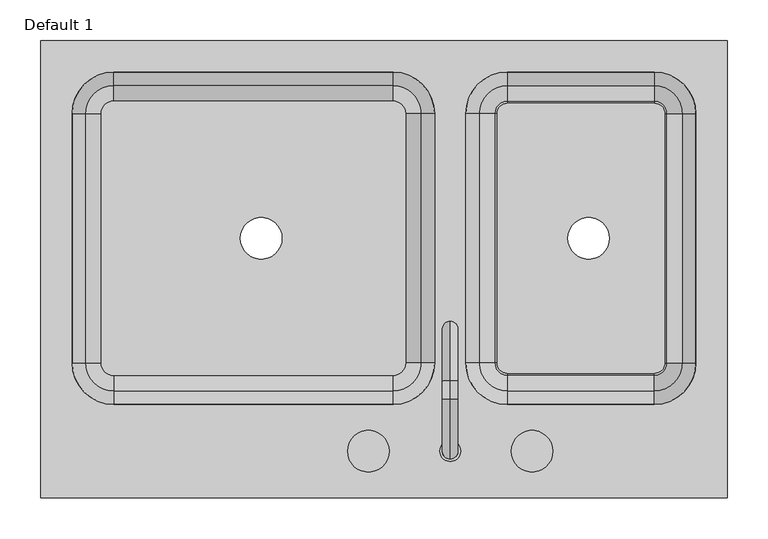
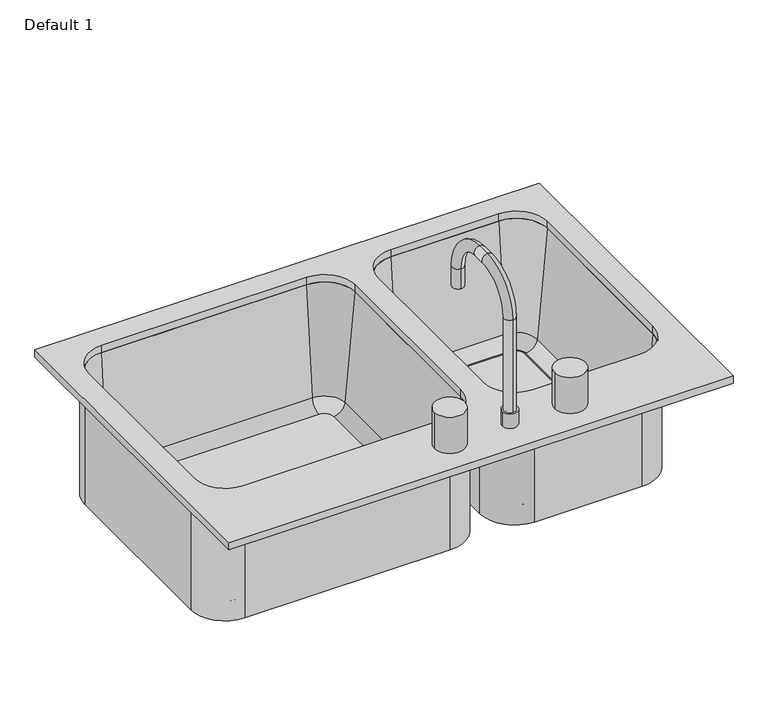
"""IFC4 building model written with IfcOpenShell, lengths in millimetres: flow terminal geometry, 2D Kitcken-Sink Double Half : Default 1."""

from ifc_helpers import new_model, si_unit, point, frame, frame_2d, origin, place, context, project, spatial, polyline, circle_curve, ellipse_curve, trimmed, segment, composite_curve, outline, extrude, source, transform, mapped, element, save
from ifc_brep_helpers import plane_surface, cylinder_surface, revolved_surface, advanced_brep


def default_1_8c387ca1(model_context):
    return source(origin(), model_context, "Body", "SolidModel", [
        advanced_brep(
        [(-38.8723412, -116.6454011, 555.625), (-38.8723412, 188.1545989, 555.625), (-54.1607594, 203.4430171, 555.625), (-395.4107594, 203.4430171, 555.625), (-410.6991776, 188.1545989, 555.625), (-410.6991776, -116.6454011, 555.625), (-395.4107594, -131.9338193, 555.625), (-54.1607594, -131.9338193, 555.625), (-240.6607594, 35.7545989, 555.625), (-189.8607594, 35.7545989, 555.625), (-452.5607594, -116.6454011, 546.1), (-452.5607594, 188.1545989, 546.1), (-395.4107594, 245.3045989, 546.1), (-54.1607594, 245.3045989, 546.1), (2.9892406, 188.1545989, 546.1), (2.9892406, -116.6454011, 546.1), (-54.1607594, -173.7954011, 546.1), (-395.4107594, -173.7954011, 546.1), (-240.6607594, 35.7545989, 546.1), (-189.8607594, 35.7545989, 546.1), (2.9892406, -116.6454011, 762.0), (-54.1607594, -173.7954011, 762.0), (-54.1607594, -150.9113283, 573.0146831), (-19.8948322, -116.6454011, 573.0146831), (-54.1607594, -167.4454011, 762.0), (-3.3607594, -116.6454011, 762.0), (2.9892406, 188.1545989, 762.0), (-19.8948322, 188.1545989, 573.0146831), (-3.3607594, 188.1545989, 762.0), (-54.1607594, 245.3045989, 762.0), (-54.1607594, 222.4205261, 573.0146831), (-54.1607594, 238.9545989, 762.0), (-395.4107594, 245.3045989, 762.0), (-395.4107594, 222.4205261, 573.0146831), (-395.4107594, 238.9545989, 762.0), (-452.5607594, 188.1545989, 762.0), (-429.6766866, 188.1545989, 573.0146831), (-446.2107594, 188.1545989, 762.0), (-452.5607594, -116.6454011, 762.0), (-429.6766866, -116.6454011, 573.0146831), (-446.2107594, -116.6454011, 762.0), (-395.4107594, -173.7954011, 762.0), (-395.4107594, -150.9113283, 573.0146831), (-395.4107594, -167.4454011, 762.0)],
        [
            (0, 1),
            (1, 2, circle_curve(frame((-54.1607594, 188.1545989, 555.625), z_axis=(0.0, 0.0, 1.0), x_axis=(1.0, 0.0, 0.0)), 15.2884182)),
            (2, 3),
            (3, 4, circle_curve(frame((-395.4107594, 188.1545989, 555.625), z_axis=(0.0, 0.0, 1.0), x_axis=(0.0, 1.0, 0.0)), 15.2884182)),
            (4, 5),
            (5, 6, circle_curve(frame((-395.4107594, -116.6454011, 555.625), z_axis=(0.0, 0.0, 1.0), x_axis=(-1.0, 0.0, 0.0)), 15.2884182)),
            (6, 7),
            (7, 0, circle_curve(frame((-54.1607594, -116.6454011, 555.625), z_axis=(0.0, 0.0, 1.0), x_axis=(0.0, -1.0, 0.0)), 15.2884182)),
            (8, 9, circle_curve(frame((-215.2607594, 35.7545989, 555.625), z_axis=(0.0, 0.0, -1.0), x_axis=(1.0, 0.0, 0.0)), 25.4)),
            (9, 8, circle_curve(frame((-215.2607594, 35.7545989, 555.625), z_axis=(0.0, 0.0, -1.0), x_axis=(1.0, 0.0, 0.0)), 25.4)),
            (10, 11),
            (11, 12, circle_curve(frame((-395.4107594, 188.1545989, 546.1), z_axis=(0.0, 0.0, -1.0), x_axis=(0.0, 1.0, 0.0)), 57.15)),
            (12, 13),
            (13, 14, circle_curve(frame((-54.1607594, 188.1545989, 546.1), z_axis=(0.0, 0.0, -1.0), x_axis=(1.0, 0.0, 0.0)), 57.15)),
            (14, 15),
            (15, 16, circle_curve(frame((-54.1607594, -116.6454011, 546.1), z_axis=(0.0, 0.0, -1.0), x_axis=(0.0, -1.0, 0.0)), 57.15)),
            (16, 17),
            (17, 10, circle_curve(frame((-395.4107594, -116.6454011, 546.1), z_axis=(0.0, 0.0, -1.0), x_axis=(-1.0, 0.0, 0.0)), 57.15)),
            (18, 19, circle_curve(frame((-215.2607594, 35.7545989, 546.1), z_axis=(0.0, 0.0, 1.0), x_axis=(1.0, 0.0, 0.0)), 25.4)),
            (19, 18, circle_curve(frame((-215.2607594, 35.7545989, 546.1), z_axis=(0.0, 0.0, 1.0), x_axis=(1.0, 0.0, 0.0)), 25.4)),
            (9, 19),
            (18, 8),
            (15, 20),
            (20, 21, circle_curve(frame((-54.1607594, -116.6454011, 762.0), z_axis=(0.0, 0.0, -1.0), x_axis=(0.0, -1.0, 0.0)), 57.15)),
            (21, 16),
            (7, 22, circle_curve(frame((-54.1607594, -131.9338193, 574.675), z_axis=(-1.0, 0.0, 0.0), x_axis=(0.0, -1.0, 0.0)), 19.05)),
            (22, 23, circle_curve(frame((-54.1607594, -116.6454011, 573.0146831), z_axis=(0.0, 0.0, 1.0), x_axis=(0.0, -1.0, 0.0)), 34.2659272)),
            (23, 0, circle_curve(frame((-38.8723412, -116.6454011, 574.675), z_axis=(0.0, 1.0, 0.0), x_axis=(1.0, 0.0, 0.0)), 19.05)),
            (22, 24),
            (24, 25, circle_curve(frame((-54.1607594, -116.6454011, 762.0), z_axis=(0.0, 0.0, 1.0), x_axis=(0.0, -1.0, 0.0)), 50.8)),
            (25, 23),
            (20, 25),
            (24, 21),
            (14, 26),
            (26, 20),
            (23, 27),
            (27, 1, circle_curve(frame((-38.8723412, 188.1545989, 574.675), z_axis=(0.0, 1.0, 0.0), x_axis=(1.0, 0.0, 0.0)), 19.05)),
            (25, 28),
            (28, 27),
            (26, 28),
            (13, 29),
            (29, 26, circle_curve(frame((-54.1607594, 188.1545989, 762.0), z_axis=(0.0, 0.0, -1.0), x_axis=(1.0, 0.0, 0.0)), 57.15)),
            (27, 30, circle_curve(frame((-54.1607594, 188.1545989, 573.0146831), z_axis=(0.0, 0.0, 1.0), x_axis=(1.0, 0.0, 0.0)), 34.2659272)),
            (30, 2, circle_curve(frame((-54.1607594, 203.4430171, 574.675), z_axis=(-1.0, 0.0, 0.0), x_axis=(0.0, 1.0, 0.0)), 19.05)),
            (28, 31, circle_curve(frame((-54.1607594, 188.1545989, 762.0), z_axis=(0.0, 0.0, 1.0), x_axis=(1.0, 0.0, 0.0)), 50.8)),
            (31, 30),
            (29, 31),
            (12, 32),
            (32, 29),
            (30, 33),
            (33, 3, circle_curve(frame((-395.4107594, 203.4430171, 574.675), z_axis=(-1.0, 0.0, 0.0), x_axis=(0.0, 1.0, 0.0)), 19.05)),
            (31, 34),
            (34, 33),
            (32, 34),
            (11, 35),
            (35, 32, circle_curve(frame((-395.4107594, 188.1545989, 762.0), z_axis=(0.0, 0.0, -1.0), x_axis=(0.0, 1.0, 0.0)), 57.15)),
            (33, 36, circle_curve(frame((-395.4107594, 188.1545989, 573.0146831), z_axis=(0.0, 0.0, 1.0), x_axis=(0.0, 1.0, 0.0)), 34.2659272)),
            (36, 4, circle_curve(frame((-410.6991776, 188.1545989, 574.675), z_axis=(0.0, -1.0, 0.0), x_axis=(-1.0, 0.0, 0.0)), 19.05)),
            (34, 37, circle_curve(frame((-395.4107594, 188.1545989, 762.0), z_axis=(0.0, 0.0, 1.0), x_axis=(0.0, 1.0, 0.0)), 50.8)),
            (37, 36),
            (35, 37),
            (10, 38),
            (38, 35),
            (36, 39),
            (39, 5, circle_curve(frame((-410.6991776, -116.6454011, 574.675), z_axis=(0.0, -1.0, 0.0), x_axis=(-1.0, 0.0, 0.0)), 19.05)),
            (37, 40),
            (40, 39),
            (38, 40),
            (17, 41),
            (41, 38, circle_curve(frame((-395.4107594, -116.6454011, 762.0), z_axis=(0.0, 0.0, -1.0), x_axis=(-1.0, 0.0, 0.0)), 57.15)),
            (39, 42, circle_curve(frame((-395.4107594, -116.6454011, 573.0146831), z_axis=(0.0, 0.0, 1.0), x_axis=(-1.0, 0.0, 0.0)), 34.2659272)),
            (42, 6, circle_curve(frame((-395.4107594, -131.9338193, 574.675), z_axis=(1.0, 0.0, 0.0), x_axis=(0.0, -1.0, 0.0)), 19.05)),
            (40, 43, circle_curve(frame((-395.4107594, -116.6454011, 762.0), z_axis=(0.0, 0.0, 1.0), x_axis=(-1.0, 0.0, 0.0)), 50.8)),
            (43, 42),
            (41, 43),
            (21, 41),
            (42, 22),
            (43, 24),
        ],
        [
            plane_surface(frame((-395.4107594, -129.3454011, 555.625), z_axis=(0.0, 0.0, 1.0), x_axis=(-1.0, 0.0, 0.0))),
            plane_surface(frame((-395.4107594, -129.3454011, 546.1), z_axis=(0.0, 0.0, -1.0), x_axis=(1.0, 0.0, 0.0))),
            revolved_surface(polyline([(-189.8607594, 35.7545989, 546.1), (-189.8607594, 35.7545989, 555.625)]), (-215.2607594, 35.7545989, 0.0), (0.0, 0.0, -1.0)),
            cylinder_surface(frame((-54.1607594, -116.6454011, 0.0), z_axis=(0.0, 0.0, -1.0), x_axis=(0.0, -1.0, 0.0)), 57.15),
            revolved_surface(trimmed(ellipse_curve(frame((-54.1607594, -131.9338193, 574.675), z_axis=(-1.0, 0.0, 0.0), x_axis=(0.0, -1.0, 0.0)), 19.05, 19.05), [point((-54.1607594, -131.9338193, 555.625))], [point((-54.1607594, -150.9113283, 573.0146831))], True, "CARTESIAN"), (-54.1607594, -116.6454011, 0.0), (0.0, 0.0, -1.0)),
            revolved_surface(polyline([(-54.1607594, -150.9113283, 573.0146831), (-54.1607594, -167.4454011, 762.0)]), (-54.1607594, -116.6454011, 0.0), (0.0, 0.0, -1.0)),
            plane_surface(frame((-54.1607594, -116.6454011, 762.0), z_axis=(0.0, 0.0, 1.0), x_axis=(0.0, -1.0, 0.0))),
            plane_surface(frame((2.9892406, -116.6454011, 762.0), z_axis=(1.0, 0.0, 0.0), x_axis=(0.0, 1.0, 0.0))),
            revolved_surface(polyline([(-19.8223412, 188.1545989, 574.675), (-19.8223412, -116.6454011, 574.675)]), (-38.8723412, -116.6454011, 574.675), (0.0, 1.0, 0.0)),
            plane_surface(frame((-19.8948322, -116.6454011, 573.0146831), z_axis=(-0.996194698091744, 0.0, 0.08715574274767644), x_axis=(0.0, 1.0, 0.0))),
            plane_surface(frame((-3.3607594, -116.6454011, 762.0), z_axis=(0.0, 0.0, 1.0), x_axis=(0.0, 1.0, 0.0))),
            cylinder_surface(frame((-54.1607594, 188.1545989, 0.0), z_axis=(0.0, 0.0, -1.0), x_axis=(1.0, 0.0, 0.0)), 57.15),
            revolved_surface(trimmed(ellipse_curve(frame((-38.8723412, 188.1545989, 574.675), z_axis=(0.0, -1.0, 0.0), x_axis=(1.0, 0.0, 0.0)), 19.05, 19.05), [point((-38.8723412, 188.1545989, 555.625))], [point((-19.8948322, 188.1545989, 573.0146831))], True, "CARTESIAN"), (-54.1607594, 188.1545989, 0.0), (0.0, 0.0, -1.0)),
            revolved_surface(polyline([(-19.8948322, 188.1545989, 573.0146831), (-3.3607594, 188.1545989, 762.0)]), (-54.1607594, 188.1545989, 0.0), (0.0, 0.0, -1.0)),
            plane_surface(frame((-54.1607594, 188.1545989, 762.0), z_axis=(0.0, 0.0, 1.0), x_axis=(1.0, 0.0, 0.0))),
            plane_surface(frame((-54.1607594, 245.3045989, 762.0), z_axis=(0.0, 1.0, 0.0), x_axis=(-1.0, 0.0, 0.0))),
            revolved_surface(polyline([(-395.4107594, 222.4930171, 574.675), (-54.1607594, 222.4930171, 574.675)]), (-54.1607594, 203.4430171, 574.675), (-1.0, 0.0, 0.0)),
            plane_surface(frame((-54.1607594, 222.4205261, 573.0146831), z_axis=(0.0, -0.996194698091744, 0.08715574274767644), x_axis=(-1.0, 0.0, 0.0))),
            plane_surface(frame((-54.1607594, 238.9545989, 762.0), z_axis=(0.0, 0.0, 1.0), x_axis=(-1.0, 0.0, 0.0))),
            cylinder_surface(frame((-395.4107594, 188.1545989, 0.0), z_axis=(0.0, 0.0, -1.0), x_axis=(0.0, 1.0, 0.0)), 57.15),
            revolved_surface(trimmed(ellipse_curve(frame((-395.4107594, 203.4430171, 574.675), z_axis=(1.0, 0.0, 0.0), x_axis=(0.0, 1.0, 0.0)), 19.05, 19.05), [point((-395.4107594, 203.4430171, 555.625))], [point((-395.4107594, 222.4205261, 573.0146831))], True, "CARTESIAN"), (-395.4107594, 188.1545989, 0.0), (0.0, 0.0, -1.0)),
            revolved_surface(polyline([(-395.4107594, 222.4205261, 573.0146831), (-395.4107594, 238.9545989, 762.0)]), (-395.4107594, 188.1545989, 0.0), (0.0, 0.0, -1.0)),
            plane_surface(frame((-395.4107594, 188.1545989, 762.0), z_axis=(0.0, 0.0, 1.0), x_axis=(0.0, 1.0, 0.0))),
            plane_surface(frame((-452.5607594, 188.1545989, 762.0), z_axis=(-1.0, 0.0, 0.0), x_axis=(0.0, -1.0, 0.0))),
            revolved_surface(polyline([(-429.7491776, -116.64540110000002, 574.675), (-429.7491776, 188.1545989, 574.675)]), (-410.6991776, 188.1545989, 574.675), (0.0, -1.0, 0.0)),
            plane_surface(frame((-429.6766866, 188.1545989, 573.0146831), z_axis=(0.996194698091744, 0.0, 0.08715574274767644), x_axis=(0.0, -1.0, 0.0))),
            plane_surface(frame((-446.2107594, 188.1545989, 762.0), z_axis=(0.0, 0.0, 1.0), x_axis=(0.0, -1.0, 0.0))),
            cylinder_surface(frame((-395.4107594, -116.6454011, 0.0), z_axis=(0.0, 0.0, -1.0), x_axis=(-1.0, 0.0, 0.0)), 57.15),
            revolved_surface(trimmed(ellipse_curve(frame((-410.6991776, -116.6454011, 574.675), z_axis=(0.0, 1.0, 0.0), x_axis=(-1.0, 0.0, 0.0)), 19.05, 19.05), [point((-410.6991776, -116.6454011, 555.625))], [point((-429.6766866, -116.6454011, 573.0146831))], True, "CARTESIAN"), (-395.4107594, -116.6454011, 0.0), (0.0, 0.0, -1.0)),
            revolved_surface(polyline([(-429.6766866, -116.6454011, 573.0146831), (-446.2107594, -116.6454011, 762.0)]), (-395.4107594, -116.6454011, 0.0), (0.0, 0.0, -1.0)),
            plane_surface(frame((-395.4107594, -116.6454011, 762.0), z_axis=(0.0, 0.0, 1.0), x_axis=(-1.0, 0.0, 0.0))),
            plane_surface(frame((-395.4107594, -173.7954011, 762.0), z_axis=(0.0, -1.0, 0.0), x_axis=(1.0, 0.0, 0.0))),
            revolved_surface(polyline([(-54.16075940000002, -150.98381930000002, 574.675), (-395.4107594, -150.98381930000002, 574.675)]), (-395.4107594, -131.9338193, 574.675), (1.0, 0.0, 0.0)),
            plane_surface(frame((-395.4107594, -150.9113283, 573.0146831), z_axis=(0.0, 0.996194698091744, 0.08715574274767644), x_axis=(1.0, 0.0, 0.0))),
            plane_surface(frame((-395.4107594, -167.4454011, 762.0), z_axis=(0.0, 0.0, 1.0), x_axis=(1.0, 0.0, 0.0))),
        ],
        [
            (0, [[1, 2, 3, 4, 5, 6, 7, 8], [9, 10]]),
            (1, [[11, 12, 13, 14, 15, 16, 17, 18], [19, 20]]),
            (2, [[21, -19, 22, -10]]),
            (2, [[-22, -20, -21, -9]]),
            (3, [[23, 24, 25, -16]]),
            (4, [[26, 27, 28, -8]]),
            (5, [[29, 30, 31, -27]]),
            (6, [[32, -30, 33, -24]]),
            (7, [[-15, 34, 35, -23]]),
            (8, [[36, 37, -1, -28]]),
            (9, [[38, 39, -36, -31]]),
            (10, [[-35, 40, -38, -32]]),
            (11, [[-14, 41, 42, -34]]),
            (12, [[43, 44, -2, -37]]),
            (13, [[45, 46, -43, -39]]),
            (14, [[-42, 47, -45, -40]]),
            (15, [[-13, 48, 49, -41]]),
            (16, [[50, 51, -3, -44]]),
            (17, [[52, 53, -50, -46]]),
            (18, [[-49, 54, -52, -47]]),
            (19, [[-12, 55, 56, -48]]),
            (20, [[57, 58, -4, -51]]),
            (21, [[59, 60, -57, -53]]),
            (22, [[-56, 61, -59, -54]]),
            (23, [[-11, 62, 63, -55]]),
            (24, [[64, 65, -5, -58]]),
            (25, [[66, 67, -64, -60]]),
            (26, [[-63, 68, -66, -61]]),
            (27, [[-18, 69, 70, -62]]),
            (28, [[71, 72, -6, -65]]),
            (29, [[73, 74, -71, -67]]),
            (30, [[-70, 75, -73, -68]]),
            (31, [[76, -69, -17, -25]]),
            (32, [[-7, -72, 77, -26]]),
            (33, [[-77, -74, 78, -29]]),
            (34, [[-78, -75, -76, -33]]),
        ],
    ),
        advanced_brep(
        [(265.0892406, -129.3454011, 555.625), (277.7892406, -116.6454011, 555.625), (277.7892406, 188.1545989, 555.625), (265.0892406, 200.8545989, 555.625), (85.5392406, 200.8545989, 555.625), (72.8392406, 188.1545989, 555.625), (72.8392406, -116.6454011, 555.625), (85.5392406, -129.3454011, 555.625), (159.3392406, 35.7545989, 555.625), (210.1392406, 35.7545989, 555.625), (265.0892406, -129.3454011, 546.1), (85.5392406, -129.3454011, 546.1), (72.8392406, -116.6454011, 546.1), (72.8392406, 188.1545989, 546.1), (85.5392406, 200.8545989, 546.1), (265.0892406, 200.8545989, 546.1), (277.7892406, 188.1545989, 546.1), (277.7892406, -116.6454011, 546.1), (159.3392406, 35.7545989, 546.1), (210.1392406, 35.7545989, 546.1)],
        [
            (0, 1, circle_curve(frame((265.0892406, -116.6454011, 555.625), z_axis=(0.0, 0.0, 1.0), x_axis=(1.0, 0.0, 0.0)), 12.7)),
            (1, 2),
            (2, 3, circle_curve(frame((265.0892406, 188.1545989, 555.625), z_axis=(0.0, 0.0, 1.0), x_axis=(1.0, 0.0, 0.0)), 12.7)),
            (3, 4),
            (4, 5, circle_curve(frame((85.5392406, 188.1545989, 555.625), z_axis=(0.0, 0.0, 1.0), x_axis=(1.0, 0.0, 0.0)), 12.7)),
            (5, 6),
            (6, 7, circle_curve(frame((85.5392406, -116.6454011, 555.625), z_axis=(0.0, 0.0, 1.0), x_axis=(1.0, 0.0, 0.0)), 12.7)),
            (7, 0),
            (8, 9, circle_curve(frame((184.7392406, 35.7545989, 555.625), z_axis=(0.0, 0.0, -1.0), x_axis=(1.0, 0.0, 0.0)), 25.4)),
            (9, 8, circle_curve(frame((184.7392406, 35.7545989, 555.625), z_axis=(0.0, 0.0, -1.0), x_axis=(1.0, 0.0, 0.0)), 25.4)),
            (10, 11),
            (11, 12, circle_curve(frame((85.5392406, -116.6454011, 546.1), z_axis=(0.0, 0.0, -1.0), x_axis=(1.0, 0.0, 0.0)), 12.7)),
            (12, 13),
            (13, 14, circle_curve(frame((85.5392406, 188.1545989, 546.1), z_axis=(0.0, 0.0, -1.0), x_axis=(1.0, 0.0, 0.0)), 12.7)),
            (14, 15),
            (15, 16, circle_curve(frame((265.0892406, 188.1545989, 546.1), z_axis=(0.0, 0.0, -1.0), x_axis=(1.0, 0.0, 0.0)), 12.7)),
            (16, 17),
            (17, 10, circle_curve(frame((265.0892406, -116.6454011, 546.1), z_axis=(0.0, 0.0, -1.0), x_axis=(1.0, 0.0, 0.0)), 12.7)),
            (18, 19, circle_curve(frame((184.7392406, 35.7545989, 546.1), z_axis=(0.0, 0.0, 1.0), x_axis=(1.0, 0.0, 0.0)), 25.4)),
            (19, 18, circle_curve(frame((184.7392406, 35.7545989, 546.1), z_axis=(0.0, 0.0, 1.0), x_axis=(1.0, 0.0, 0.0)), 25.4)),
            (7, 11),
            (10, 0),
            (6, 12),
            (5, 13),
            (4, 14),
            (3, 15),
            (2, 16),
            (1, 17),
            (9, 19),
            (18, 8),
        ],
        [
            plane_surface(frame((-395.4107594, -129.3454011, 555.625), z_axis=(0.0, 0.0, 1.0), x_axis=(-1.0, 0.0, 0.0))),
            plane_surface(frame((-395.4107594, -129.3454011, 546.1), z_axis=(0.0, 0.0, -1.0), x_axis=(1.0, 0.0, 0.0))),
            plane_surface(frame((265.0892406, -129.3454011, 555.625), z_axis=(0.0, -1.0, 0.0), x_axis=(0.0, 0.0, -1.0))),
            cylinder_surface(frame((85.5392406, -116.6454011, 0.0), z_axis=(0.0, 0.0, 1.0), x_axis=(1.0, 0.0, 0.0)), 12.7),
            plane_surface(frame((72.8392406, -116.6454011, 555.625), z_axis=(-1.0, 0.0, 0.0), x_axis=(0.0, 0.0, -1.0))),
            cylinder_surface(frame((85.5392406, 188.1545989, 0.0), z_axis=(0.0, 0.0, 1.0), x_axis=(1.0, 0.0, 0.0)), 12.7),
            plane_surface(frame((85.5392406, 200.8545989, 555.625), z_axis=(0.0, 1.0, 0.0), x_axis=(0.0, 0.0, -1.0))),
            cylinder_surface(frame((265.0892406, 188.1545989, 0.0), z_axis=(0.0, 0.0, 1.0), x_axis=(1.0, 0.0, 0.0)), 12.7),
            plane_surface(frame((277.7892406, 188.1545989, 555.625), z_axis=(1.0, 0.0, 0.0), x_axis=(0.0, 0.0, -1.0))),
            cylinder_surface(frame((265.0892406, -116.6454011, 0.0), z_axis=(0.0, 0.0, 1.0), x_axis=(1.0, 0.0, 0.0)), 12.7),
            revolved_surface(polyline([(210.1392406, 35.7545989, 546.1), (210.1392406, 35.7545989, 555.625)]), (184.7392406, 35.7545989, 0.0), (0.0, 0.0, -1.0)),
        ],
        [
            (0, [[1, 2, 3, 4, 5, 6, 7, 8], [9, 10]]),
            (1, [[11, 12, 13, 14, 15, 16, 17, 18], [19, 20]]),
            (2, [[21, -11, 22, -8]]),
            (3, [[23, -12, -21, -7]]),
            (4, [[24, -13, -23, -6]]),
            (5, [[25, -14, -24, -5]]),
            (6, [[26, -15, -25, -4]]),
            (7, [[27, -16, -26, -3]]),
            (8, [[28, -17, -27, -2]]),
            (9, [[-22, -18, -28, -1]]),
            (10, [[29, -19, 30, -10]]),
            (10, [[-30, -20, -29, -9]]),
        ],
    ),
        advanced_brep(
        [(2.9892406, -224.5954011, 774.7), (28.3892406, -224.5954011, 774.7), (15.6892406, -234.1204011, 962.025), (15.6892406, -234.1204011, 800.1), (15.6892406, -215.0704011, 800.1), (15.6892406, -215.0704011, 962.025), (15.6892406, -161.0954011, 1016.0), (15.6892406, -161.0954011, 1035.05), (15.6892406, -138.8704011, 1016.0), (15.6892406, -138.8704011, 1035.05), (15.6892406, -84.8954011, 962.025), (15.6892406, -65.8454011, 962.025), (15.6892406, -65.8454011, 927.1), (15.6892406, -84.8954011, 927.1), (2.9892406, -224.5954011, 800.1), (28.3892406, -224.5954011, 800.1)],
        [
            (0, 1, circle_curve(frame((15.6892406, -224.5954011, 774.7), z_axis=(0.0, 0.0, -1.0), x_axis=(1.0, 0.0, 0.0)), 12.7)),
            (1, 0, circle_curve(frame((15.6892406, -224.5954011, 774.7), z_axis=(0.0, 0.0, -1.0), x_axis=(1.0, 0.0, 0.0)), 12.7)),
            (2, 3),
            (3, 4, circle_curve(frame((15.6892406, -224.5954011, 800.1), z_axis=(0.0, 0.0, 1.0), x_axis=(0.0, 1.0, 0.0)), 9.525)),
            (4, 5),
            (5, 2, circle_curve(frame((15.6892406, -224.5954011, 962.025), z_axis=(0.0, 0.0, -1.0), x_axis=(0.0, 1.0, 0.0)), 9.525)),
            (4, 3, circle_curve(frame((15.6892406, -224.5954011, 800.1), z_axis=(0.0, 0.0, 1.0), x_axis=(0.0, 1.0, 0.0)), 9.525)),
            (2, 5, circle_curve(frame((15.6892406, -224.5954011, 962.025), z_axis=(0.0, 0.0, -1.0), x_axis=(0.0, 1.0, 0.0)), 9.525)),
            (5, 6, circle_curve(frame((15.6892406, -161.0954011, 962.025), z_axis=(-1.0, 0.0, 0.0), x_axis=(0.0, -1.0, 0.0)), 53.975)),
            (6, 7, circle_curve(frame((15.6892406, -161.0954011, 1025.525), z_axis=(0.0, -1.0, 0.0), x_axis=(0.0, 0.0, -1.0)), 9.525)),
            (7, 2, circle_curve(frame((15.6892406, -161.0954011, 962.025), z_axis=(1.0, 0.0, 0.0), x_axis=(0.0, -1.0, 0.0)), 73.025)),
            (7, 6, circle_curve(frame((15.6892406, -161.0954011, 1025.525), z_axis=(0.0, -1.0, 0.0), x_axis=(0.0, 0.0, -1.0)), 9.525)),
            (6, 8),
            (8, 9, circle_curve(frame((15.6892406, -138.8704011, 1025.525), z_axis=(0.0, -1.0, 0.0), x_axis=(0.0, 0.0, -1.0)), 9.525)),
            (9, 7),
            (9, 8, circle_curve(frame((15.6892406, -138.8704011, 1025.525), z_axis=(0.0, -1.0, 0.0), x_axis=(0.0, 0.0, -1.0)), 9.525)),
            (8, 10, circle_curve(frame((15.6892406, -138.8704011, 962.025), z_axis=(-1.0, 0.0, 0.0), x_axis=(0.0, 0.0, 1.0)), 53.975)),
            (10, 11, circle_curve(frame((15.6892406, -75.3704011, 962.025), z_axis=(0.0, 0.0, 1.0), x_axis=(0.0, -1.0, 0.0)), 9.525)),
            (11, 9, circle_curve(frame((15.6892406, -138.8704011, 962.025), z_axis=(1.0, 0.0, 0.0), x_axis=(0.0, 0.0, 1.0)), 73.025)),
            (11, 10, circle_curve(frame((15.6892406, -75.3704011, 962.025), z_axis=(0.0, 0.0, 1.0), x_axis=(0.0, -1.0, 0.0)), 9.525)),
            (12, 13, circle_curve(frame((15.6892406, -75.3704011, 927.1), z_axis=(0.0, 0.0, -1.0), x_axis=(0.0, -1.0, 0.0)), 9.525)),
            (13, 12, circle_curve(frame((15.6892406, -75.3704011, 927.1), z_axis=(0.0, 0.0, -1.0), x_axis=(0.0, -1.0, 0.0)), 9.525)),
            (10, 13),
            (12, 11),
            (14, 15, circle_curve(frame((15.6892406, -224.5954011, 800.1), z_axis=(0.0, 0.0, 1.0), x_axis=(1.0, 0.0, 0.0)), 12.7)),
            (15, 14, circle_curve(frame((15.6892406, -224.5954011, 800.1), z_axis=(0.0, 0.0, 1.0), x_axis=(1.0, 0.0, 0.0)), 12.7)),
            (15, 1),
            (0, 14),
        ],
        [
            plane_surface(frame((15.6892406, -215.0704011, 774.7), z_axis=(0.0, 0.0, -1.0), x_axis=(1.0, 0.0, 0.0))),
            cylinder_surface(frame((15.6892406, -224.5954011, 774.7), z_axis=(0.0, 0.0, -1.0), x_axis=(0.0, 1.0, 0.0)), 9.525),
            revolved_surface(trimmed(ellipse_curve(frame((15.6892406, -224.5954011, 962.025), z_axis=(0.0, 0.0, 1.0), x_axis=(0.0, 1.0, 0.0)), 9.525, 9.525), [point((15.6892406, -234.1204011, 962.025))], [point((15.6892406, -215.0704011, 962.025))], True, "CARTESIAN"), (15.6892406, -161.0954011, 962.025), (1.0, 0.0, 0.0)),
            revolved_surface(trimmed(ellipse_curve(frame((15.6892406, -224.5954011, 962.025), z_axis=(0.0, 0.0, 1.0), x_axis=(0.0, 1.0, 0.0)), 9.525, 9.525), [point((15.6892406, -215.0704011, 962.025))], [point((15.6892406, -234.1204011, 962.025))], True, "CARTESIAN"), (15.6892406, -161.0954011, 962.025), (1.0, 0.0, 0.0)),
            cylinder_surface(frame((15.6892406, -161.0954011, 1025.525), z_axis=(0.0, -1.0, 0.0), x_axis=(0.0, 0.0, -1.0)), 9.525),
            revolved_surface(trimmed(ellipse_curve(frame((15.6892406, -138.8704011, 1025.525), z_axis=(0.0, 1.0, 0.0), x_axis=(0.0, 0.0, -1.0)), 9.525, 9.525), [point((15.6892406, -138.8704011, 1035.05))], [point((15.6892406, -138.8704011, 1016.0))], True, "CARTESIAN"), (15.6892406, -138.8704011, 962.025), (1.0, 0.0, 0.0)),
            revolved_surface(trimmed(ellipse_curve(frame((15.6892406, -138.8704011, 1025.525), z_axis=(0.0, 1.0, 0.0), x_axis=(0.0, 0.0, -1.0)), 9.525, 9.525), [point((15.6892406, -138.8704011, 1016.0))], [point((15.6892406, -138.8704011, 1035.05))], True, "CARTESIAN"), (15.6892406, -138.8704011, 962.025), (1.0, 0.0, 0.0)),
            plane_surface(frame((15.6892406, -65.8454011, 927.1), z_axis=(0.0, 0.0, -1.0), x_axis=(-1.0, 0.0, 0.0))),
            cylinder_surface(frame((15.6892406, -75.3704011, 962.025), z_axis=(0.0, 0.0, 1.0), x_axis=(0.0, -1.0, 0.0)), 9.525),
            plane_surface(frame((28.3892406, -224.5954011, 800.1), z_axis=(0.0, 0.0, 1.0), x_axis=(0.0, -1.0, 0.0))),
            cylinder_surface(frame((15.6892406, -224.5954011, 774.7), z_axis=(0.0, 0.0, 1.0), x_axis=(1.0, 0.0, 0.0)), 12.7),
        ],
        [
            (0, [[1, 2]]),
            (1, [[3, 4, 5, 6]]),
            (1, [[-5, 7, -3, 8]]),
            (2, [[9, 10, 11, -6]]),
            (3, [[-11, 12, -9, -8]]),
            (4, [[13, 14, 15, -10]]),
            (4, [[-15, 16, -13, -12]]),
            (5, [[17, 18, 19, -14]]),
            (6, [[-19, 20, -17, -16]]),
            (7, [[21, 22]]),
            (8, [[23, -21, 24, -18]]),
            (8, [[-24, -22, -23, -20]]),
            (9, [[25, 26], [-7, -4]]),
            (10, [[27, -1, 28, -26]]),
            (10, [[-28, -2, -27, -25]]),
        ],
    ),
        advanced_brep(
        [(34.7392406, -116.6454011, 762.0), (28.3892406, -116.6454011, 762.0), (85.5392406, -173.7954011, 762.0), (85.5392406, -167.4454011, 762.0), (51.2733134, -116.6454011, 573.0146831), (85.5392406, -150.9113283, 573.0146831), (70.2508224, -116.6454011, 555.625), (85.5392406, -131.9338193, 555.625), (72.8392406, -116.6454011, 555.625), (85.5392406, -129.3454011, 555.625), (72.8392406, -116.6454011, 546.1), (85.5392406, -129.3454011, 546.1), (28.3892406, -116.6454011, 546.1), (85.5392406, -173.7954011, 546.1), (34.7392406, 188.1545989, 762.0), (28.3892406, 188.1545989, 762.0), (51.2733134, 188.1545989, 573.0146831), (70.2508224, 188.1545989, 555.625), (72.8392406, 188.1545989, 555.625), (72.8392406, 188.1545989, 546.1), (28.3892406, 188.1545989, 546.1), (85.5392406, 238.9545989, 762.0), (85.5392406, 245.3045989, 762.0), (85.5392406, 222.4205261, 573.0146831), (85.5392406, 203.4430171, 555.625), (85.5392406, 200.8545989, 555.625), (85.5392406, 200.8545989, 546.1), (85.5392406, 245.3045989, 546.1), (265.0892406, 238.9545989, 762.0), (265.0892406, 245.3045989, 762.0), (265.0892406, 222.4205261, 573.0146831), (265.0892406, 203.4430171, 555.625), (265.0892406, 200.8545989, 555.625), (265.0892406, 200.8545989, 546.1), (265.0892406, 245.3045989, 546.1), (315.8892406, 188.1545989, 762.0), (322.2392406, 188.1545989, 762.0), (299.3551678, 188.1545989, 573.0146831), (280.3776588, 188.1545989, 555.625), (277.7892406, 188.1545989, 555.625), (277.7892406, 188.1545989, 546.1), (322.2392406, 188.1545989, 546.1), (315.8892406, -116.6454011, 762.0), (322.2392406, -116.6454011, 762.0), (299.3551678, -116.6454011, 573.0146831), (280.3776588, -116.6454011, 555.625), (277.7892406, -116.6454011, 555.625), (277.7892406, -116.6454011, 546.1), (322.2392406, -116.6454011, 546.1), (265.0892406, -167.4454011, 762.0), (265.0892406, -173.7954011, 762.0), (265.0892406, -150.9113283, 573.0146831), (265.0892406, -131.9338193, 555.625), (265.0892406, -129.3454011, 555.625), (265.0892406, -129.3454011, 546.1), (265.0892406, -173.7954011, 546.1)],
        [
            (0, 1),
            (1, 2, circle_curve(frame((85.5392406, -116.6454011, 762.0), z_axis=(0.0, 0.0, 1.0), x_axis=(0.0, -1.0, 0.0)), 57.15)),
            (2, 3),
            (3, 0, circle_curve(frame((85.5392406, -116.6454011, 762.0), z_axis=(0.0, 0.0, -1.0), x_axis=(0.0, -1.0, 0.0)), 50.8)),
            (4, 0),
            (3, 5),
            (5, 4, circle_curve(frame((85.5392406, -116.6454011, 573.0146831), z_axis=(0.0, 0.0, -1.0), x_axis=(0.0, -1.0, 0.0)), 34.2659272)),
            (6, 4, circle_curve(frame((70.2508224, -116.6454011, 574.675), z_axis=(0.0, 1.0, 0.0), x_axis=(1.0, 0.0, 0.0)), 19.05)),
            (5, 7, circle_curve(frame((85.5392406, -131.9338193, 574.675), z_axis=(1.0, 0.0, 0.0), x_axis=(0.0, 1.0, 0.0)), 19.05)),
            (7, 6, circle_curve(frame((85.5392406, -116.6454011, 555.625), z_axis=(0.0, 0.0, -1.0), x_axis=(0.0, -1.0, 0.0)), 15.2884182)),
            (8, 6),
            (7, 9),
            (9, 8, circle_curve(frame((85.5392406, -116.6454011, 555.625), z_axis=(0.0, 0.0, -1.0), x_axis=(0.0, -1.0, 0.0)), 12.7)),
            (10, 8),
            (9, 11),
            (11, 10, circle_curve(frame((85.5392406, -116.6454011, 546.1), z_axis=(0.0, 0.0, -1.0), x_axis=(0.0, -1.0, 0.0)), 12.7)),
            (12, 10),
            (11, 13),
            (13, 12, circle_curve(frame((85.5392406, -116.6454011, 546.1), z_axis=(0.0, 0.0, -1.0), x_axis=(0.0, -1.0, 0.0)), 57.15)),
            (1, 12),
            (13, 2),
            (0, 14),
            (14, 15),
            (15, 1),
            (4, 16),
            (16, 14),
            (6, 17),
            (17, 16, circle_curve(frame((70.2508224, 188.1545989, 574.675), z_axis=(0.0, 1.0, 0.0), x_axis=(1.0, 0.0, 0.0)), 19.05)),
            (8, 18),
            (18, 17),
            (10, 19),
            (19, 18),
            (12, 20),
            (20, 19),
            (15, 20),
            (21, 22),
            (22, 15, circle_curve(frame((85.5392406, 188.1545989, 762.0), z_axis=(0.0, 0.0, 1.0), x_axis=(-1.0, 0.0, 0.0)), 57.15)),
            (14, 21, circle_curve(frame((85.5392406, 188.1545989, 762.0), z_axis=(0.0, 0.0, -1.0), x_axis=(-1.0, 0.0, 0.0)), 50.8)),
            (23, 21),
            (16, 23, circle_curve(frame((85.5392406, 188.1545989, 573.0146831), z_axis=(0.0, 0.0, -1.0), x_axis=(-1.0, 0.0, 0.0)), 34.2659272)),
            (24, 23, circle_curve(frame((85.5392406, 203.4430171, 574.675), z_axis=(1.0, 0.0, 0.0), x_axis=(0.0, -1.0, 0.0)), 19.05)),
            (17, 24, circle_curve(frame((85.5392406, 188.1545989, 555.625), z_axis=(0.0, 0.0, -1.0), x_axis=(-1.0, 0.0, 0.0)), 15.2884182)),
            (25, 24),
            (18, 25, circle_curve(frame((85.5392406, 188.1545989, 555.625), z_axis=(0.0, 0.0, -1.0), x_axis=(-1.0, 0.0, 0.0)), 12.7)),
            (26, 25),
            (19, 26, circle_curve(frame((85.5392406, 188.1545989, 546.1), z_axis=(0.0, 0.0, -1.0), x_axis=(-1.0, 0.0, 0.0)), 12.7)),
            (27, 26),
            (20, 27, circle_curve(frame((85.5392406, 188.1545989, 546.1), z_axis=(0.0, 0.0, -1.0), x_axis=(-1.0, 0.0, 0.0)), 57.15)),
            (22, 27),
            (21, 28),
            (28, 29),
            (29, 22),
            (23, 30),
            (30, 28),
            (24, 31),
            (31, 30, circle_curve(frame((265.0892406, 203.4430171, 574.675), z_axis=(1.0, 0.0, 0.0), x_axis=(0.0, -1.0, 0.0)), 19.05)),
            (25, 32),
            (32, 31),
            (26, 33),
            (33, 32),
            (27, 34),
            (34, 33),
            (29, 34),
            (35, 36),
            (36, 29, circle_curve(frame((265.0892406, 188.1545989, 762.0), z_axis=(0.0, 0.0, 1.0), x_axis=(0.0, 1.0, 0.0)), 57.15)),
            (28, 35, circle_curve(frame((265.0892406, 188.1545989, 762.0), z_axis=(0.0, 0.0, -1.0), x_axis=(0.0, 1.0, 0.0)), 50.8)),
            (37, 35),
            (30, 37, circle_curve(frame((265.0892406, 188.1545989, 573.0146831), z_axis=(0.0, 0.0, -1.0), x_axis=(0.0, 1.0, 0.0)), 34.2659272)),
            (38, 37, circle_curve(frame((280.3776588, 188.1545989, 574.675), z_axis=(0.0, -1.0, 0.0), x_axis=(-1.0, 0.0, 0.0)), 19.05)),
            (31, 38, circle_curve(frame((265.0892406, 188.1545989, 555.625), z_axis=(0.0, 0.0, -1.0), x_axis=(0.0, 1.0, 0.0)), 15.2884182)),
            (39, 38),
            (32, 39, circle_curve(frame((265.0892406, 188.1545989, 555.625), z_axis=(0.0, 0.0, -1.0), x_axis=(0.0, 1.0, 0.0)), 12.7)),
            (40, 39),
            (33, 40, circle_curve(frame((265.0892406, 188.1545989, 546.1), z_axis=(0.0, 0.0, -1.0), x_axis=(0.0, 1.0, 0.0)), 12.7)),
            (41, 40),
            (34, 41, circle_curve(frame((265.0892406, 188.1545989, 546.1), z_axis=(0.0, 0.0, -1.0), x_axis=(0.0, 1.0, 0.0)), 57.15)),
            (36, 41),
            (35, 42),
            (42, 43),
            (43, 36),
            (37, 44),
            (44, 42),
            (38, 45),
            (45, 44, circle_curve(frame((280.3776588, -116.6454011, 574.675), z_axis=(0.0, -1.0, 0.0), x_axis=(-1.0, 0.0, 0.0)), 19.05)),
            (39, 46),
            (46, 45),
            (40, 47),
            (47, 46),
            (41, 48),
            (48, 47),
            (43, 48),
            (49, 50),
            (50, 43, circle_curve(frame((265.0892406, -116.6454011, 762.0), z_axis=(0.0, 0.0, 1.0), x_axis=(1.0, 0.0, 0.0)), 57.15)),
            (42, 49, circle_curve(frame((265.0892406, -116.6454011, 762.0), z_axis=(0.0, 0.0, -1.0), x_axis=(1.0, 0.0, 0.0)), 50.8)),
            (51, 49),
            (44, 51, circle_curve(frame((265.0892406, -116.6454011, 573.0146831), z_axis=(0.0, 0.0, -1.0), x_axis=(1.0, 0.0, 0.0)), 34.2659272)),
            (52, 51, circle_curve(frame((265.0892406, -131.9338193, 574.675), z_axis=(-1.0, 0.0, 0.0), x_axis=(0.0, 1.0, 0.0)), 19.05)),
            (45, 52, circle_curve(frame((265.0892406, -116.6454011, 555.625), z_axis=(0.0, 0.0, -1.0), x_axis=(1.0, 0.0, 0.0)), 15.2884182)),
            (53, 52),
            (46, 53, circle_curve(frame((265.0892406, -116.6454011, 555.625), z_axis=(0.0, 0.0, -1.0), x_axis=(1.0, 0.0, 0.0)), 12.7)),
            (54, 53),
            (47, 54, circle_curve(frame((265.0892406, -116.6454011, 546.1), z_axis=(0.0, 0.0, -1.0), x_axis=(1.0, 0.0, 0.0)), 12.7)),
            (55, 54),
            (48, 55, circle_curve(frame((265.0892406, -116.6454011, 546.1), z_axis=(0.0, 0.0, -1.0), x_axis=(1.0, 0.0, 0.0)), 57.15)),
            (50, 55),
            (49, 3),
            (2, 50),
            (51, 5),
            (52, 7),
            (53, 9),
            (54, 11),
            (55, 13),
        ],
        [
            plane_surface(frame((85.5392406, -116.6454011, 762.0), z_axis=(0.0, 0.0, 1.0), x_axis=(0.0, -1.0, 0.0))),
            revolved_surface(polyline([(85.5392406, -167.4454011, 762.0), (85.5392406, -150.9113283, 573.0146831)]), (85.5392406, -116.6454011, 0.0), (0.0, 0.0, 1.0)),
            revolved_surface(trimmed(ellipse_curve(frame((85.5392406, -131.9338193, 574.675), z_axis=(1.0, 0.0, 0.0), x_axis=(0.0, 1.0, 0.0)), 19.05, 19.05), [point((85.5392406, -150.9113283, 573.0146831))], [point((85.5392406, -131.9338193, 555.625))], True, "CARTESIAN"), (85.5392406, -116.6454011, 0.0), (0.0, 0.0, 1.0)),
            plane_surface(frame((85.5392406, -116.6454011, 555.625), z_axis=(0.0, 0.0, 1.0), x_axis=(0.0, -1.0, 0.0))),
            revolved_surface(polyline([(85.5392406, -129.3454011, 555.625), (85.5392406, -129.3454011, 546.1)]), (85.5392406, -116.6454011, 0.0), (0.0, 0.0, 1.0)),
            plane_surface(frame((85.5392406, -116.6454011, 546.1), z_axis=(0.0, 0.0, -1.0), x_axis=(0.0, -1.0, 0.0))),
            cylinder_surface(frame((85.5392406, -116.6454011, 0.0), z_axis=(0.0, 0.0, 1.0), x_axis=(0.0, -1.0, 0.0)), 57.15),
            plane_surface(frame((28.3892406, -116.6454011, 762.0), z_axis=(0.0, 0.0, 1.0), x_axis=(0.0, 1.0, 0.0))),
            plane_surface(frame((34.7392406, -116.6454011, 762.0), z_axis=(0.996194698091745, 0.0, 0.08715574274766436), x_axis=(0.0, 1.0, 0.0))),
            revolved_surface(polyline([(89.3008224, 188.1545989, 574.675), (89.3008224, -116.6454011, 574.675)]), (70.2508224, -116.6454011, 574.675), (0.0, 1.0, 0.0)),
            plane_surface(frame((70.2508224, -116.6454011, 555.625), z_axis=(0.0, 0.0, 1.0), x_axis=(0.0, 1.0, 0.0))),
            plane_surface(frame((72.8392406, -116.6454011, 555.625), z_axis=(1.0, 0.0, 0.0), x_axis=(0.0, 1.0, 0.0))),
            plane_surface(frame((72.8392406, -116.6454011, 546.1), z_axis=(0.0, 0.0, -1.0), x_axis=(0.0, 1.0, 0.0))),
            plane_surface(frame((28.3892406, -116.6454011, 546.1), z_axis=(-1.0, 0.0, 0.0), x_axis=(0.0, 1.0, 0.0))),
            plane_surface(frame((85.5392406, 188.1545989, 762.0), z_axis=(0.0, 0.0, 1.0), x_axis=(-1.0, 0.0, 0.0))),
            revolved_surface(polyline([(34.7392406, 188.1545989, 762.0), (51.2733134, 188.1545989, 573.0146831)]), (85.5392406, 188.1545989, 0.0), (0.0, 0.0, 1.0)),
            revolved_surface(trimmed(ellipse_curve(frame((70.2508224, 188.1545989, 574.675), z_axis=(0.0, -1.0, 0.0), x_axis=(1.0, 0.0, 0.0)), 19.05, 19.05), [point((51.2733134, 188.1545989, 573.0146831))], [point((70.2508224, 188.1545989, 555.625))], True, "CARTESIAN"), (85.5392406, 188.1545989, 0.0), (0.0, 0.0, 1.0)),
            plane_surface(frame((85.5392406, 188.1545989, 555.625), z_axis=(0.0, 0.0, 1.0), x_axis=(-1.0, 0.0, 0.0))),
            revolved_surface(polyline([(72.8392406, 188.1545989, 555.625), (72.8392406, 188.1545989, 546.1)]), (85.5392406, 188.1545989, 0.0), (0.0, 0.0, 1.0)),
            plane_surface(frame((85.5392406, 188.1545989, 546.1), z_axis=(0.0, 0.0, -1.0), x_axis=(-1.0, 0.0, 0.0))),
            cylinder_surface(frame((85.5392406, 188.1545989, 0.0), z_axis=(0.0, 0.0, 1.0), x_axis=(-1.0, 0.0, 0.0)), 57.15),
            plane_surface(frame((85.5392406, 245.3045989, 762.0), z_axis=(0.0, 0.0, 1.0), x_axis=(1.0, 0.0, 0.0))),
            plane_surface(frame((85.5392406, 238.9545989, 762.0), z_axis=(0.0, -0.996194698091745, 0.08715574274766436), x_axis=(1.0, 0.0, 0.0))),
            revolved_surface(polyline([(265.0892406, 184.39301709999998, 574.675), (85.5392406, 184.39301709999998, 574.675)]), (85.5392406, 203.4430171, 574.675), (1.0, 0.0, 0.0)),
            plane_surface(frame((85.5392406, 203.4430171, 555.625), z_axis=(0.0, 0.0, 1.0), x_axis=(1.0, 0.0, 0.0))),
            plane_surface(frame((85.5392406, 200.8545989, 555.625), z_axis=(0.0, -1.0, 0.0), x_axis=(1.0, 0.0, 0.0))),
            plane_surface(frame((85.5392406, 200.8545989, 546.1), z_axis=(0.0, 0.0, -1.0), x_axis=(1.0, 0.0, 0.0))),
            plane_surface(frame((85.5392406, 245.3045989, 546.1), z_axis=(0.0, 1.0, 0.0), x_axis=(1.0, 0.0, 0.0))),
            plane_surface(frame((265.0892406, 188.1545989, 762.0), z_axis=(0.0, 0.0, 1.0), x_axis=(0.0, 1.0, 0.0))),
            revolved_surface(polyline([(265.0892406, 238.9545989, 762.0), (265.0892406, 222.4205261, 573.0146831)]), (265.0892406, 188.1545989, 0.0), (0.0, 0.0, 1.0)),
            revolved_surface(trimmed(ellipse_curve(frame((265.0892406, 203.4430171, 574.675), z_axis=(-1.0, 0.0, 0.0), x_axis=(0.0, -1.0, 0.0)), 19.05, 19.05), [point((265.0892406, 222.4205261, 573.0146831))], [point((265.0892406, 203.4430171, 555.625))], True, "CARTESIAN"), (265.0892406, 188.1545989, 0.0), (0.0, 0.0, 1.0)),
            plane_surface(frame((265.0892406, 188.1545989, 555.625), z_axis=(0.0, 0.0, 1.0), x_axis=(0.0, 1.0, 0.0))),
            revolved_surface(polyline([(265.0892406, 200.85459889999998, 555.625), (265.0892406, 200.85459889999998, 546.1)]), (265.0892406, 188.1545989, 0.0), (0.0, 0.0, 1.0)),
            plane_surface(frame((265.0892406, 188.1545989, 546.1), z_axis=(0.0, 0.0, -1.0), x_axis=(0.0, 1.0, 0.0))),
            cylinder_surface(frame((265.0892406, 188.1545989, 0.0), z_axis=(0.0, 0.0, 1.0), x_axis=(0.0, 1.0, 0.0)), 57.15),
            plane_surface(frame((322.2392406, 188.1545989, 762.0), z_axis=(0.0, 0.0, 1.0), x_axis=(0.0, -1.0, 0.0))),
            plane_surface(frame((315.8892406, 188.1545989, 762.0), z_axis=(-0.996194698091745, 0.0, 0.08715574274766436), x_axis=(0.0, -1.0, 0.0))),
            revolved_surface(polyline([(261.3276588, -116.64540110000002, 574.675), (261.3276588, 188.1545989, 574.675)]), (280.3776588, 188.1545989, 574.675), (0.0, -1.0, 0.0)),
            plane_surface(frame((280.3776588, 188.1545989, 555.625), z_axis=(0.0, 0.0, 1.0), x_axis=(0.0, -1.0, 0.0))),
            plane_surface(frame((277.7892406, 188.1545989, 555.625), z_axis=(-1.0, 0.0, 0.0), x_axis=(0.0, -1.0, 0.0))),
            plane_surface(frame((277.7892406, 188.1545989, 546.1), z_axis=(0.0, 0.0, -1.0), x_axis=(0.0, -1.0, 0.0))),
            plane_surface(frame((322.2392406, 188.1545989, 546.1), z_axis=(1.0, 0.0, 0.0), x_axis=(0.0, -1.0, 0.0))),
            plane_surface(frame((265.0892406, -116.6454011, 762.0), z_axis=(0.0, 0.0, 1.0), x_axis=(1.0, 0.0, 0.0))),
            revolved_surface(polyline([(315.8892406, -116.6454011, 762.0), (299.3551678, -116.6454011, 573.0146831)]), (265.0892406, -116.6454011, 0.0), (0.0, 0.0, 1.0)),
            revolved_surface(trimmed(ellipse_curve(frame((280.3776588, -116.6454011, 574.675), z_axis=(0.0, 1.0, 0.0), x_axis=(-1.0, 0.0, 0.0)), 19.05, 19.05), [point((299.3551678, -116.6454011, 573.0146831))], [point((280.3776588, -116.6454011, 555.625))], True, "CARTESIAN"), (265.0892406, -116.6454011, 0.0), (0.0, 0.0, 1.0)),
            plane_surface(frame((265.0892406, -116.6454011, 555.625), z_axis=(0.0, 0.0, 1.0), x_axis=(1.0, 0.0, 0.0))),
            revolved_surface(polyline([(277.78924059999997, -116.6454011, 555.625), (277.78924059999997, -116.6454011, 546.1)]), (265.0892406, -116.6454011, 0.0), (0.0, 0.0, 1.0)),
            plane_surface(frame((265.0892406, -116.6454011, 546.1), z_axis=(0.0, 0.0, -1.0), x_axis=(1.0, 0.0, 0.0))),
            cylinder_surface(frame((265.0892406, -116.6454011, 0.0), z_axis=(0.0, 0.0, 1.0), x_axis=(1.0, 0.0, 0.0)), 57.15),
            plane_surface(frame((265.0892406, -173.7954011, 762.0), z_axis=(0.0, 0.0, 1.0), x_axis=(-1.0, 0.0, 0.0))),
            plane_surface(frame((265.0892406, -167.4454011, 762.0), z_axis=(0.0, 0.996194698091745, 0.08715574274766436), x_axis=(-1.0, 0.0, 0.0))),
            revolved_surface(polyline([(85.5392406, -112.88381930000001, 574.675), (265.0892406, -112.88381930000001, 574.675)]), (265.0892406, -131.9338193, 574.675), (-1.0, 0.0, 0.0)),
            plane_surface(frame((265.0892406, -131.9338193, 555.625), z_axis=(0.0, 0.0, 1.0), x_axis=(-1.0, 0.0, 0.0))),
            plane_surface(frame((265.0892406, -129.3454011, 555.625), z_axis=(0.0, 1.0, 0.0), x_axis=(-1.0, 0.0, 0.0))),
            plane_surface(frame((265.0892406, -129.3454011, 546.1), z_axis=(0.0, 0.0, -1.0), x_axis=(-1.0, 0.0, 0.0))),
            plane_surface(frame((265.0892406, -173.7954011, 546.1), z_axis=(0.0, -1.0, 0.0), x_axis=(-1.0, 0.0, 0.0))),
        ],
        [
            (0, [[1, 2, 3, 4]]),
            (1, [[5, -4, 6, 7]]),
            (2, [[8, -7, 9, 10]]),
            (3, [[11, -10, 12, 13]]),
            (4, [[14, -13, 15, 16]]),
            (5, [[17, -16, 18, 19]]),
            (6, [[20, -19, 21, -2]]),
            (7, [[22, 23, 24, -1]]),
            (8, [[25, 26, -22, -5]]),
            (9, [[27, 28, -25, -8]]),
            (10, [[29, 30, -27, -11]]),
            (11, [[31, 32, -29, -14]]),
            (12, [[33, 34, -31, -17]]),
            (13, [[-24, 35, -33, -20]]),
            (14, [[36, 37, -23, 38]]),
            (15, [[39, -38, -26, 40]]),
            (16, [[41, -40, -28, 42]]),
            (17, [[43, -42, -30, 44]]),
            (18, [[45, -44, -32, 46]]),
            (19, [[47, -46, -34, 48]]),
            (20, [[49, -48, -35, -37]]),
            (21, [[50, 51, 52, -36]]),
            (22, [[53, 54, -50, -39]]),
            (23, [[55, 56, -53, -41]]),
            (24, [[57, 58, -55, -43]]),
            (25, [[59, 60, -57, -45]]),
            (26, [[61, 62, -59, -47]]),
            (27, [[-52, 63, -61, -49]]),
            (28, [[64, 65, -51, 66]]),
            (29, [[67, -66, -54, 68]]),
            (30, [[69, -68, -56, 70]]),
            (31, [[71, -70, -58, 72]]),
            (32, [[73, -72, -60, 74]]),
            (33, [[75, -74, -62, 76]]),
            (34, [[77, -76, -63, -65]]),
            (35, [[78, 79, 80, -64]]),
            (36, [[81, 82, -78, -67]]),
            (37, [[83, 84, -81, -69]]),
            (38, [[85, 86, -83, -71]]),
            (39, [[87, 88, -85, -73]]),
            (40, [[89, 90, -87, -75]]),
            (41, [[-80, 91, -89, -77]]),
            (42, [[92, 93, -79, 94]]),
            (43, [[95, -94, -82, 96]]),
            (44, [[97, -96, -84, 98]]),
            (45, [[99, -98, -86, 100]]),
            (46, [[101, -100, -88, 102]]),
            (47, [[103, -102, -90, 104]]),
            (48, [[105, -104, -91, -93]]),
            (49, [[106, -3, 107, -92]]),
            (50, [[108, -6, -106, -95]]),
            (51, [[109, -9, -108, -97]]),
            (52, [[110, -12, -109, -99]]),
            (53, [[111, -15, -110, -101]]),
            (54, [[112, -18, -111, -103]]),
            (55, [[-107, -21, -112, -105]]),
        ],
    ),
        extrude(outline(composite_curve([segment(trimmed(circle_curve(frame_2d((-84.3107594, -224.5954011)), 25.4), [point((-109.7107594, -224.5954011))], [point((-58.9107594, -224.5954011))], False, "CARTESIAN"), True, "CONTINUOUS"), segment(trimmed(circle_curve(frame_2d((-84.3107594, -224.5954011)), 25.4), [point((-58.9107594, -224.5954011))], [point((-109.7107594, -224.5954011))], False, "CARTESIAN"), True, "CONTINUOUS")], self_intersect=False)), frame((0.0, 0.0, 774.7), z_axis=(0.0, 0.0, 1.0), x_axis=(1.0, 0.0, 0.0)), (0.0, 0.0, 1.0), 63.5),
        extrude(outline(composite_curve([segment(trimmed(circle_curve(frame_2d((115.6892406, -224.5954011)), 25.4), [point((90.2892406, -224.5954011))], [point((141.0892406, -224.5954011))], False, "CARTESIAN"), True, "CONTINUOUS"), segment(trimmed(circle_curve(frame_2d((115.6892406, -224.5954011)), 25.4), [point((141.0892406, -224.5954011))], [point((90.2892406, -224.5954011))], False, "CARTESIAN"), True, "CONTINUOUS")], self_intersect=False)), frame((0.0, 0.0, 774.7), z_axis=(0.0, 0.0, 1.0), x_axis=(1.0, 0.0, 0.0)), (0.0, 0.0, 1.0), 63.5),
        extrude(outline(polyline([(353.8892406, -281.7454011), (-484.3107594, -281.7454011), (-484.3107594, 277.0545989), (353.8892406, 277.0545989), (353.8892406, -281.7454011)]), holes=[composite_curve([segment(trimmed(circle_curve(frame_2d((-54.1607594, -116.6454011)), 50.8), [point((-54.1607594, -167.4454011))], [point((-3.3607594, -116.6454011))], True, "CARTESIAN"), True, "CONTINUOUS"), segment(polyline([(-3.3607594, -116.6454011), (-3.3607594, 188.1545989)]), True, "CONTINUOUS"), segment(trimmed(circle_curve(frame_2d((-54.1607594, 188.1545989)), 50.8), [point((-3.3607594, 188.1545989))], [point((-54.1607594, 238.9545989))], True, "CARTESIAN"), True, "CONTINUOUS"), segment(polyline([(-54.1607594, 238.9545989), (-395.4107594, 238.9545989)]), True, "CONTINUOUS"), segment(trimmed(circle_curve(frame_2d((-395.4107594, 188.1545989)), 50.8), [point((-395.4107594, 238.9545989))], [point((-446.2107594, 188.1545989))], True, "CARTESIAN"), True, "CONTINUOUS"), segment(polyline([(-446.2107594, 188.1545989), (-446.2107594, -116.6454011)]), True, "CONTINUOUS"), segment(trimmed(circle_curve(frame_2d((-395.4107594, -116.6454011)), 50.8), [point((-446.2107594, -116.6454011))], [point((-395.4107594, -167.4454011))], True, "CARTESIAN"), True, "CONTINUOUS"), segment(polyline([(-395.4107594, -167.4454011), (-54.1607594, -167.4454011)]), True, "CONTINUOUS")], self_intersect=False), composite_curve([segment(trimmed(circle_curve(frame_2d((85.5392406, 188.1545989)), 50.8), [point((85.5392406, 238.9545989))], [point((34.7392406, 188.1545989))], True, "CARTESIAN"), True, "CONTINUOUS"), segment(polyline([(34.7392406, 188.1545989), (34.7392406, -116.6454011)]), True, "CONTINUOUS"), segment(trimmed(circle_curve(frame_2d((85.5392406, -116.6454011)), 50.8), [point((34.7392406, -116.6454011))], [point((85.5392406, -167.4454011))], True, "CARTESIAN"), True, "CONTINUOUS"), segment(polyline([(85.5392406, -167.4454011), (265.0892406, -167.4454011)]), True, "CONTINUOUS"), segment(trimmed(circle_curve(frame_2d((265.0892406, -116.6454011)), 50.8), [point((265.0892406, -167.4454011))], [point((315.8892406, -116.6454011))], True, "CARTESIAN"), True, "CONTINUOUS"), segment(polyline([(315.8892406, -116.6454011), (315.8892406, 188.1545989)]), True, "CONTINUOUS"), segment(trimmed(circle_curve(frame_2d((265.0892406, 188.1545989)), 50.8), [point((315.8892406, 188.1545989))], [point((265.0892406, 238.9545989))], True, "CARTESIAN"), True, "CONTINUOUS"), segment(polyline([(265.0892406, 238.9545989), (85.5392406, 238.9545989)]), True, "CONTINUOUS")], self_intersect=False)]), frame((0.0, 0.0, 762.0), z_axis=(0.0, 0.0, 1.0), x_axis=(1.0, 0.0, 0.0)), (0.0, 0.0, 1.0), 12.7),
    ])


if __name__ == "__main__":
    model = new_model("IFC4")
    model_context = context("Model", 3, world=origin())
    ifc_project = project(units=[si_unit("LENGTHUNIT", "METRE", prefix="MILLI")], contexts=[model_context])
    site = spatial("IfcSite", under=ifc_project)
    building = spatial("IfcBuilding", under=site)
    placement = place(None, origin())
    default_1_shape = default_1_8c387ca1(model_context)
    element("IfcFlowTerminal", 1, ObjectType="2D Kitcken-Sink Double Half : Default 1", at=placement, inside=building, context=model_context, shape_type="MappedRepresentation", body=[
        mapped(default_1_shape, transform((0.0, 0.0, 0.0), x_axis=(1.0, 0.0, 0.0), y_axis=(0.0, 1.0, 0.0), z_axis=(0.0, 0.0, 1.0))),
    ])
    save(model, "model.ifc")
